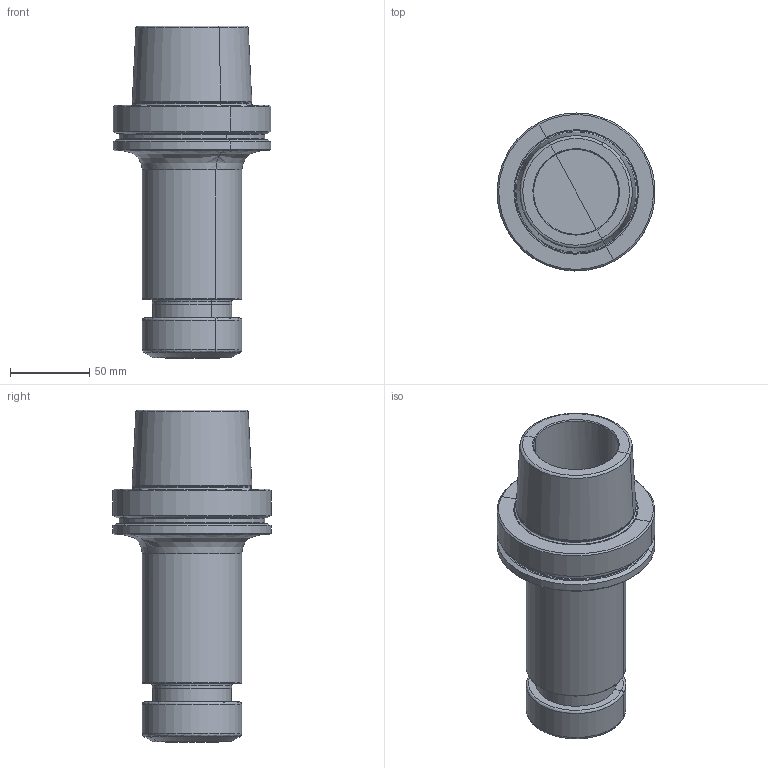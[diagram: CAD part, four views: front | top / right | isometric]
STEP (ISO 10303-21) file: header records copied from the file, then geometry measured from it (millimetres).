
FILE_DESCRIPTION(('CATIA V5 STEP','CAx-IF Rec.Pracs.--- Model Styling and Organization---1.2---2011-12-15'),'2;1');
FILE_NAME('\\nas01\drv1\utils\eitdev\rte\eit\transmagicconvert\db\out\635923544503813846\4504602 L.stp','2016-02-29T12:54:24+00:00',('none'),('none'),'CATIA Version 5 Release 21 SP 5 (IN-10)','CATIA V5 STEP AP214','none');
FILE_SCHEMA(('AUTOMOTIVE_DESIGN { 1 0 10303 214 1 1 1 1 }'));
Length unit declared in the file: millimetre
Products named in the file (1): HSK A 100 ER40X160
Bounding box: 99.82 x 99.99 x 210.03 mm (x, y, z)
Volume: 618933.8 mm3; surface area: 81993.9 mm2
Topology: 1 solids, 1 shells, 116 faces, 233 edges, 119 vertices
Faces by surface type: revolution 92, plane 24
Entity records: 3606 total; most frequent: CARTESIAN_POINT 1469, ORIENTED_EDGE 466, DIRECTION 263, EDGE_CURVE 233, B_SPLINE_CURVE_WITH_KNOTS 184, AXIS2_PLACEMENT_3D 135, CIRCLE 119, VERTEX_POINT 119
